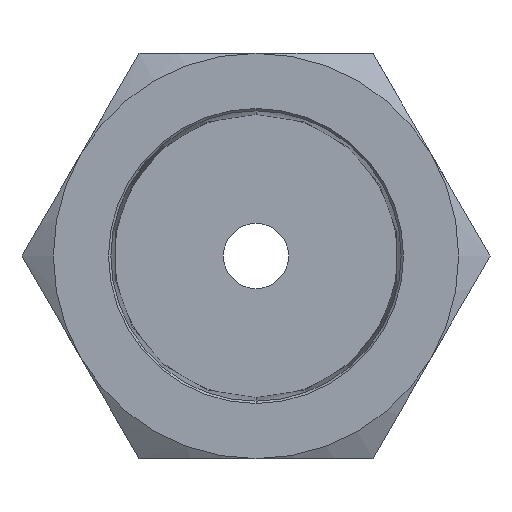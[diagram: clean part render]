
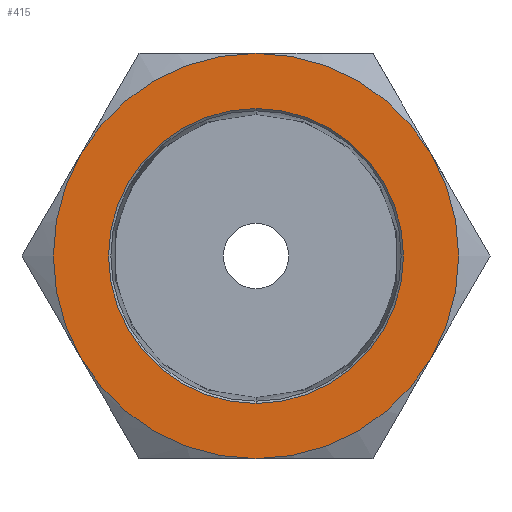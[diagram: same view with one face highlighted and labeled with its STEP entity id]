
A CAD part, left-side view. The second image highlights one B-rep face of the part: STEP entity #415.
In plain terms, the highlighted planar face has unit normal (-1, 0, 0).
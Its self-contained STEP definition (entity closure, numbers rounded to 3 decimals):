
#27 = VERTEX_POINT ( 'NONE', #602 ) ;
#29 = EDGE_CURVE ( 'NONE', #27, #128, #601, .T. ) ;
#110 = VERTEX_POINT ( 'NONE', #713 ) ;
#117 = VERTEX_POINT ( 'NONE', #846 ) ;
#128 = VERTEX_POINT ( 'NONE', #828 ) ;
#171 = VERTEX_POINT ( 'NONE', #924 ) ;
#174 = EDGE_CURVE ( 'NONE', #171, #117, #923, .T. ) ;
#175 = ORIENTED_EDGE ( 'NONE', *, *, #176, .F. ) ;
#176 = EDGE_CURVE ( 'NONE', #392, #171, #1100, .T. ) ;
#177 = ORIENTED_EDGE ( 'NONE', *, *, #178, .F. ) ;
#178 = EDGE_CURVE ( 'NONE', #375, #392, #1095, .T. ) ;
#179 = ORIENTED_EDGE ( 'NONE', *, *, #180, .F. ) ;
#180 = EDGE_CURVE ( 'NONE', #110, #375, #1090, .T. ) ;
#181 = ORIENTED_EDGE ( 'NONE', *, *, #182, .T. ) ;
#182 = EDGE_CURVE ( 'NONE', #110, #207, #1085, .T. ) ;
#183 = ORIENTED_EDGE ( 'NONE', *, *, #184, .F. ) ;
#184 = EDGE_CURVE ( 'NONE', #117, #207, #1080, .T. ) ;
#207 = VERTEX_POINT ( 'NONE', #1018 ) ;
#364 = EDGE_CURVE ( 'NONE', #128, #27, #1194, .T. ) ;
#365 = ORIENTED_EDGE ( 'NONE', *, *, #29, .F. ) ;
#366 = EDGE_LOOP ( 'NONE', ( #367, #175, #177, #179, #181, #183 ) ) ;
#367 = ORIENTED_EDGE ( 'NONE', *, *, #174, .F. ) ;
#375 = VERTEX_POINT ( 'NONE', #1169 ) ;
#392 = VERTEX_POINT ( 'NONE', #1531 ) ;
#415 = ADVANCED_FACE ( 'NONE', ( #1500, #1498 ), #1497, .F. ) ;
#416 = EDGE_LOOP ( 'NONE', ( #417, #365 ) ) ;
#417 = ORIENTED_EDGE ( 'NONE', *, *, #364, .F. ) ;
#597 = DIRECTION ( 'NONE',  ( 0., 0., 1. ) ) ;
#598 = DIRECTION ( 'NONE',  ( -1., 0., 0. ) ) ;
#599 = CARTESIAN_POINT ( 'NONE',  ( 0., 0., 0. ) ) ;
#600 = AXIS2_PLACEMENT_3D ( 'NONE', #599, #598, #597 ) ;
#601 = CIRCLE ( 'NONE', #600, 5.2 ) ;
#602 = CARTESIAN_POINT ( 'NONE',  ( 0., 0., -5.2 ) ) ;
#713 = CARTESIAN_POINT ( 'NONE',  ( 0., 0., 7.145 ) ) ;
#828 = CARTESIAN_POINT ( 'NONE',  ( 0., 0., 5.2 ) ) ;
#846 = CARTESIAN_POINT ( 'NONE',  ( 0., 6.188, -3.572 ) ) ;
#923 = CIRCLE ( 'NONE', #1104, 7.145 ) ;
#924 = CARTESIAN_POINT ( 'NONE',  ( 0., 0., -7.145 ) ) ;
#1018 = CARTESIAN_POINT ( 'NONE',  ( 0., 6.188, 3.572 ) ) ;
#1076 = DIRECTION ( 'NONE',  ( 0., 0., -1. ) ) ;
#1077 = DIRECTION ( 'NONE',  ( 1., 0., 0. ) ) ;
#1078 = CARTESIAN_POINT ( 'NONE',  ( 0., 0., 0. ) ) ;
#1079 = AXIS2_PLACEMENT_3D ( 'NONE', #1078, #1077, #1076 ) ;
#1080 = CIRCLE ( 'NONE', #1079, 7.145 ) ;
#1081 = DIRECTION ( 'NONE',  ( 0., 0., 1. ) ) ;
#1082 = DIRECTION ( 'NONE',  ( -1., 0., 0. ) ) ;
#1083 = CARTESIAN_POINT ( 'NONE',  ( 0., 0., 0. ) ) ;
#1084 = AXIS2_PLACEMENT_3D ( 'NONE', #1083, #1082, #1081 ) ;
#1085 = CIRCLE ( 'NONE', #1084, 7.145 ) ;
#1086 = DIRECTION ( 'NONE',  ( 0., 0., -1. ) ) ;
#1087 = DIRECTION ( 'NONE',  ( 1., 0., 0. ) ) ;
#1088 = CARTESIAN_POINT ( 'NONE',  ( 0., 0., 0. ) ) ;
#1089 = AXIS2_PLACEMENT_3D ( 'NONE', #1088, #1087, #1086 ) ;
#1090 = CIRCLE ( 'NONE', #1089, 7.145 ) ;
#1091 = DIRECTION ( 'NONE',  ( 0., 0., -1. ) ) ;
#1092 = DIRECTION ( 'NONE',  ( 1., 0., 0. ) ) ;
#1093 = CARTESIAN_POINT ( 'NONE',  ( 0., 0., 0. ) ) ;
#1094 = AXIS2_PLACEMENT_3D ( 'NONE', #1093, #1092, #1091 ) ;
#1095 = CIRCLE ( 'NONE', #1094, 7.145 ) ;
#1096 = DIRECTION ( 'NONE',  ( 0., 0., -1. ) ) ;
#1097 = DIRECTION ( 'NONE',  ( 1., 0., 0. ) ) ;
#1098 = CARTESIAN_POINT ( 'NONE',  ( 0., 0., 0. ) ) ;
#1099 = AXIS2_PLACEMENT_3D ( 'NONE', #1098, #1097, #1096 ) ;
#1100 = CIRCLE ( 'NONE', #1099, 7.145 ) ;
#1101 = DIRECTION ( 'NONE',  ( 0., 0., -1. ) ) ;
#1102 = DIRECTION ( 'NONE',  ( 1., 0., 0. ) ) ;
#1103 = CARTESIAN_POINT ( 'NONE',  ( 0., 0., 0. ) ) ;
#1104 = AXIS2_PLACEMENT_3D ( 'NONE', #1103, #1102, #1101 ) ;
#1169 = CARTESIAN_POINT ( 'NONE',  ( 0., -6.188, 3.572 ) ) ;
#1185 = DIRECTION ( 'NONE',  ( 0., 0., 1. ) ) ;
#1186 = DIRECTION ( 'NONE',  ( -1., 0., 0. ) ) ;
#1187 = CARTESIAN_POINT ( 'NONE',  ( 0., 0., 0. ) ) ;
#1188 = AXIS2_PLACEMENT_3D ( 'NONE', #1187, #1186, #1185 ) ;
#1194 = CIRCLE ( 'NONE', #1188, 5.2 ) ;
#1487 = DIRECTION ( 'NONE',  ( 0., 0., -1. ) ) ;
#1488 = DIRECTION ( 'NONE',  ( 1., 0., 0. ) ) ;
#1489 = CARTESIAN_POINT ( 'NONE',  ( 0., 8.25, 0. ) ) ;
#1490 = AXIS2_PLACEMENT_3D ( 'NONE', #1489, #1488, #1487 ) ;
#1497 = PLANE ( 'NONE',  #1490 ) ;
#1498 = FACE_OUTER_BOUND ( 'NONE', #366, .T. ) ;
#1500 = FACE_BOUND ( 'NONE', #416, .T. ) ;
#1531 = CARTESIAN_POINT ( 'NONE',  ( 0., -6.188, -3.572 ) ) ;
